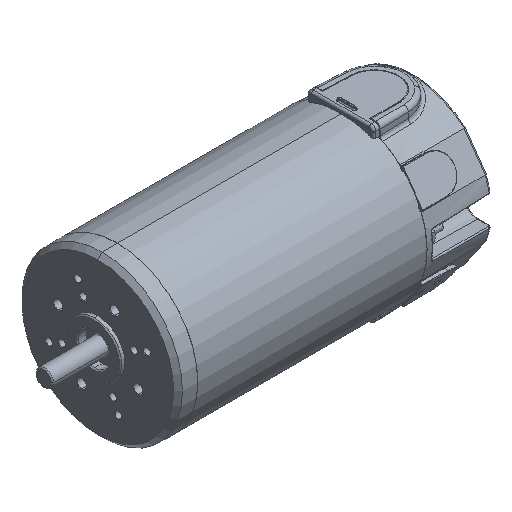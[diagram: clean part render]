
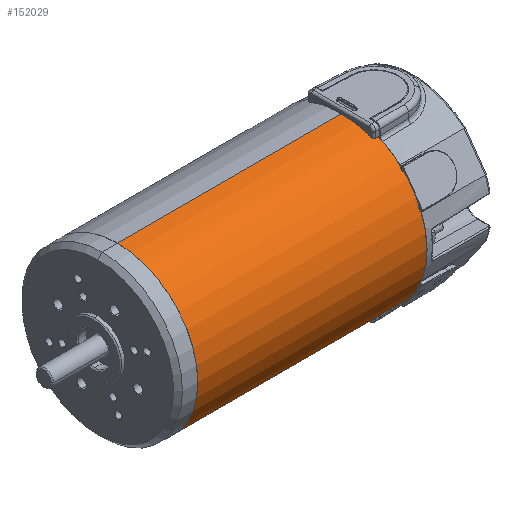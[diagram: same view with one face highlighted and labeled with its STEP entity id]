
A CAD part, isometric view. The second image highlights one B-rep face of the part: STEP entity #152029.
In plain terms, the highlighted cylindrical face has radius 37.15 mm (diameter 74.3 mm), a partial arc.
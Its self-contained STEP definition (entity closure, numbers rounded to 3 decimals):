
#3264 = CARTESIAN_POINT ( 'NONE',  ( 106., 0., 0. ) ) ;
#3855 = CARTESIAN_POINT ( 'NONE',  ( 0., 0., -37.15 ) ) ;
#6924 = EDGE_CURVE ( 'NONE', #152717, #34969, #93982, .T. ) ;
#21060 = DIRECTION ( 'NONE',  ( 0., 0., -1. ) ) ;
#23581 = DIRECTION ( 'NONE',  ( 0., 0., -1. ) ) ;
#25662 = VECTOR ( 'NONE', #148243, 1000. ) ;
#26645 = CIRCLE ( 'NONE', #97689, 37.15 ) ;
#29104 = VERTEX_POINT ( 'NONE', #157848 ) ;
#29719 = DIRECTION ( 'NONE',  ( -1., 0., 0. ) ) ;
#32165 = EDGE_LOOP ( 'NONE', ( #89749, #153921, #43666, #49945 ) ) ;
#34969 = VERTEX_POINT ( 'NONE', #105255 ) ;
#40862 = CARTESIAN_POINT ( 'NONE',  ( 106., 0., 37.15 ) ) ;
#41849 = EDGE_CURVE ( 'NONE', #34969, #155329, #65678, .T. ) ;
#43666 = ORIENTED_EDGE ( 'NONE', *, *, #6924, .T. ) ;
#43996 = LINE ( 'NONE', #112438, #25662 ) ;
#49945 = ORIENTED_EDGE ( 'NONE', *, *, #41849, .T. ) ;
#52251 = CYLINDRICAL_SURFACE ( 'NONE', #82007, 37.15 ) ;
#62120 = DIRECTION ( 'NONE',  ( 1., 0., 0. ) ) ;
#64771 = EDGE_CURVE ( 'NONE', #29104, #155329, #43996, .T. ) ;
#65075 = FACE_OUTER_BOUND ( 'NONE', #32165, .T. ) ;
#65678 = CIRCLE ( 'NONE', #161186, 37.15 ) ;
#80056 = CARTESIAN_POINT ( 'NONE',  ( 106., 0., 37.15 ) ) ;
#82007 = AXIS2_PLACEMENT_3D ( 'NONE', #3264, #108641, #159003 ) ;
#89749 = ORIENTED_EDGE ( 'NONE', *, *, #64771, .F. ) ;
#93982 = LINE ( 'NONE', #40862, #159749 ) ;
#97689 = AXIS2_PLACEMENT_3D ( 'NONE', #154406, #62120, #23581 ) ;
#105255 = CARTESIAN_POINT ( 'NONE',  ( 0., 0., 37.15 ) ) ;
#108641 = DIRECTION ( 'NONE',  ( -1., 0., 0. ) ) ;
#112438 = CARTESIAN_POINT ( 'NONE',  ( 106., 0., -37.15 ) ) ;
#113640 = CARTESIAN_POINT ( 'NONE',  ( 0., 0., 0. ) ) ;
#137200 = EDGE_CURVE ( 'NONE', #152717, #29104, #26645, .T. ) ;
#148243 = DIRECTION ( 'NONE',  ( -1., 0., 0. ) ) ;
#150274 = DIRECTION ( 'NONE',  ( 1., 0., 0. ) ) ;
#152029 = ADVANCED_FACE ( 'NONE', ( #65075 ), #52251, .T. ) ;
#152717 = VERTEX_POINT ( 'NONE', #80056 ) ;
#153921 = ORIENTED_EDGE ( 'NONE', *, *, #137200, .F. ) ;
#154406 = CARTESIAN_POINT ( 'NONE',  ( 106., 0., 0. ) ) ;
#155329 = VERTEX_POINT ( 'NONE', #3855 ) ;
#157848 = CARTESIAN_POINT ( 'NONE',  ( 106., 0., -37.15 ) ) ;
#159003 = DIRECTION ( 'NONE',  ( 0., 0., 1. ) ) ;
#159749 = VECTOR ( 'NONE', #29719, 1000. ) ;
#161186 = AXIS2_PLACEMENT_3D ( 'NONE', #113640, #150274, #21060 ) ;
